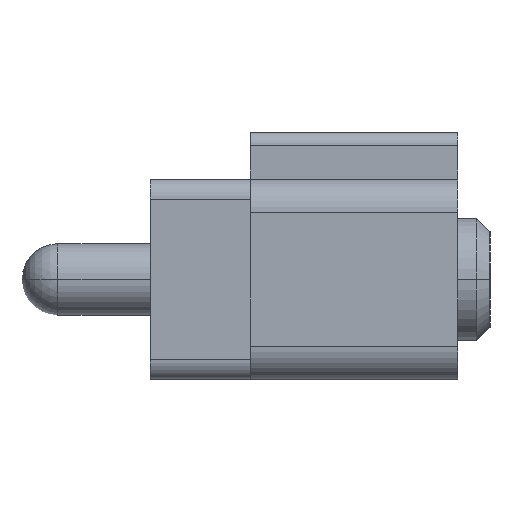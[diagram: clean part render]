
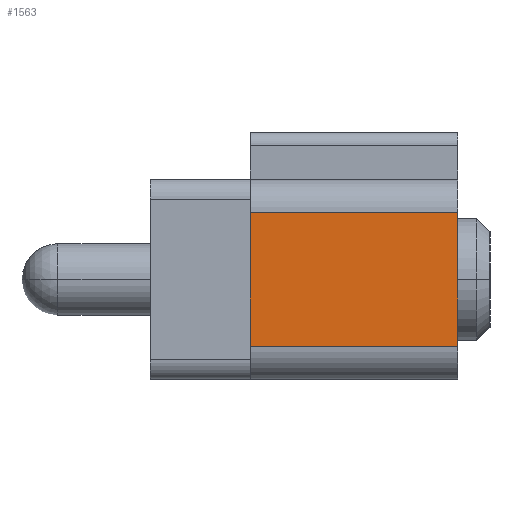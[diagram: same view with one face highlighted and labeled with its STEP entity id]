
A CAD part, left-side view. The second image highlights one B-rep face of the part: STEP entity #1563.
In plain terms, the highlighted planar face has unit normal (-1, 0, 0).
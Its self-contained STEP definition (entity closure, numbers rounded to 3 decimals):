
#187=DIRECTION('',(0.,-1.,0.));
#188=VECTOR('',#187,3.1);
#189=CARTESIAN_POINT('',(-18.07,3.1,-1.));
#190=LINE('',#189,#188);
#247=DIRECTION('',(0.,1.,0.));
#248=VECTOR('',#247,3.1);
#249=CARTESIAN_POINT('',(-18.07,0.,1.));
#250=LINE('',#249,#248);
#255=DIRECTION('',(0.,0.,-1.));
#256=VECTOR('',#255,2.);
#257=CARTESIAN_POINT('',(-18.07,0.,1.));
#258=LINE('',#257,#256);
#283=DIRECTION('',(0.,0.,-1.));
#284=VECTOR('',#283,2.);
#285=CARTESIAN_POINT('',(-18.07,3.1,1.));
#286=LINE('',#285,#284);
#1014=CARTESIAN_POINT('',(-18.07,0.,-1.));
#1016=VERTEX_POINT('',#1014);
#1017=CARTESIAN_POINT('',(-18.07,0.,1.));
#1018=VERTEX_POINT('',#1017);
#1129=CARTESIAN_POINT('',(-18.07,3.1,1.));
#1130=VERTEX_POINT('',#1129);
#1131=CARTESIAN_POINT('',(-18.07,3.1,-1.));
#1132=VERTEX_POINT('',#1131);
#1551=CARTESIAN_POINT('',(-18.07,0.,-1.5));
#1552=DIRECTION('',(-1.,0.,0.));
#1553=DIRECTION('',(0.,0.,1.));
#1554=AXIS2_PLACEMENT_3D('',#1551,#1552,#1553);
#1555=PLANE('',#1554);
#1556=ORIENTED_EDGE('',*,*,#1439,.F.);
#1558=ORIENTED_EDGE('',*,*,#1557,.F.);
#1559=ORIENTED_EDGE('',*,*,#1543,.F.);
#1560=ORIENTED_EDGE('',*,*,#1316,.T.);
#1561=EDGE_LOOP('',(#1556,#1558,#1559,#1560));
#1562=FACE_OUTER_BOUND('',#1561,.F.);
#1563=ADVANCED_FACE('',(#1562),#1555,.T.);
#1316=EDGE_CURVE('',#1018,#1016,#258,.T.);
#1439=EDGE_CURVE('',#1132,#1016,#190,.T.);
#1543=EDGE_CURVE('',#1018,#1130,#250,.T.);
#1557=EDGE_CURVE('',#1130,#1132,#286,.T.);
